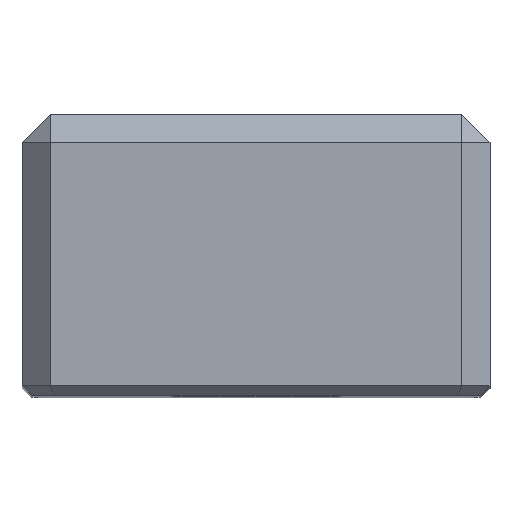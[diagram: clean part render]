
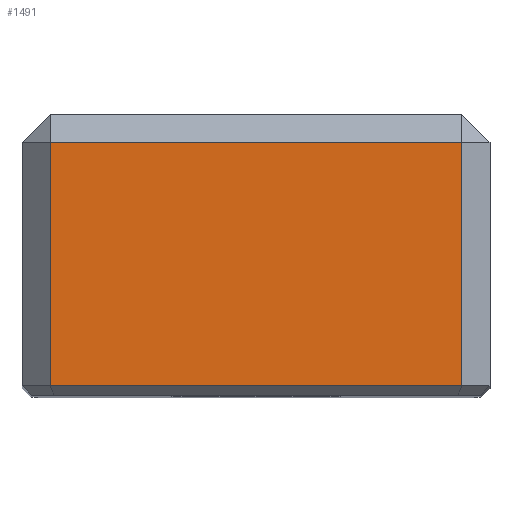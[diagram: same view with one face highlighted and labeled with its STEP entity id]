
A CAD part, top view. The second image highlights one B-rep face of the part: STEP entity #1491.
In plain terms, the highlighted planar face has unit normal (0, 0, 1).
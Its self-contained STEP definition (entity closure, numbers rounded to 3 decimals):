
#186=VERTEX_POINT(' ',#187);
#187=CARTESIAN_POINT('',(22.,-3.,0.));
#188=VERTEX_POINT(' ',#189);
#189=CARTESIAN_POINT('',(-22.,-3.,0.));
#212=VERTEX_POINT(' ',#213);
#213=CARTESIAN_POINT('',(22.,-29.,0.));
#216=VERTEX_POINT(' ',#217);
#217=CARTESIAN_POINT('',(-22.,-29.,0.));
#609=LINE('',#610,#611);
#610=CARTESIAN_POINT('',(-41.971,-3.,0.));
#611=VECTOR('',#612,1.);
#612=DIRECTION('',(1.,0.,0.));
#613=EDGE_CURVE(' ',#188,#186,#609,.T.);
#726=LINE('',#727,#728);
#727=CARTESIAN_POINT('',(22.,13.971,0.));
#728=VECTOR('',#729,1.);
#729=DIRECTION('',(0.,-1.,0.));
#730=EDGE_CURVE(' ',#186,#212,#726,.T.);
#741=LINE('',#742,#743);
#742=CARTESIAN_POINT('',(27.243,-29.,0.));
#743=VECTOR('',#744,1.);
#744=DIRECTION('',(-1.,0.,0.));
#745=EDGE_CURVE(' ',#212,#216,#741,.T.);
#746=LINE('',#747,#748);
#747=CARTESIAN_POINT('',(-22.,-46.971,0.));
#748=VECTOR('',#749,1.);
#749=DIRECTION('',(0.,1.,0.));
#750=EDGE_CURVE(' ',#216,#188,#746,.T.);
#1480=ORIENTED_EDGE('',*,*,#745,.F.);
#1481=ORIENTED_EDGE('',*,*,#730,.F.);
#1482=ORIENTED_EDGE('',*,*,#613,.F.);
#1483=ORIENTED_EDGE('',*,*,#750,.F.);
#1484=EDGE_LOOP('',(#1480,#1481,#1482,#1483));
#1485=FACE_OUTER_BOUND('',#1484,.T.);
#1486=PLANE('',#1487);
#1487=AXIS2_PLACEMENT_3D('',#1488,#1489,#1490);
#1488=CARTESIAN_POINT('',(25.,0.,0.));
#1489=DIRECTION('',(0.,0.,1.));
#1490=DIRECTION('',(-1.,0.,0.));
#1491=ADVANCED_FACE('',(#1485),#1486,.T.);
